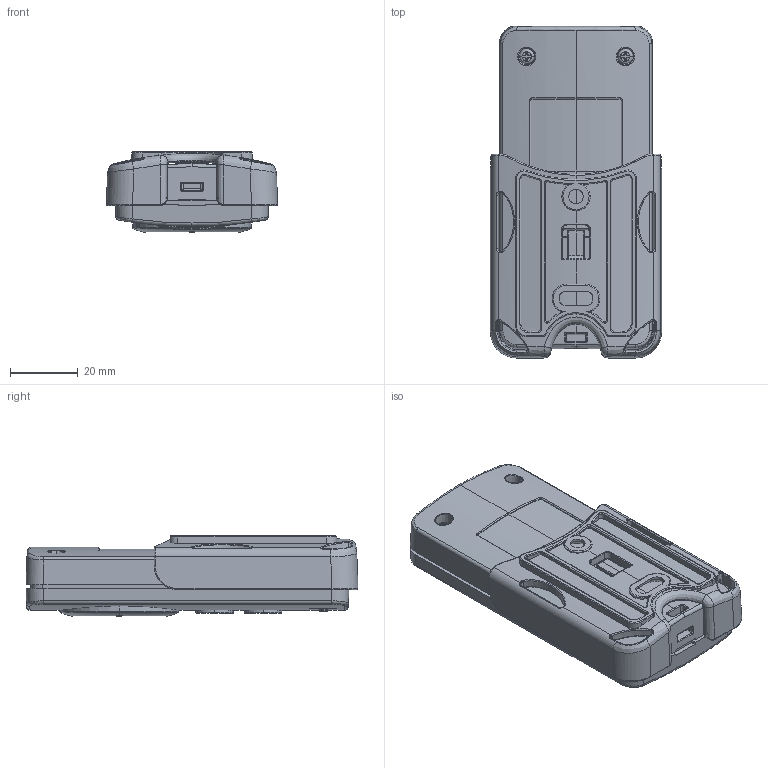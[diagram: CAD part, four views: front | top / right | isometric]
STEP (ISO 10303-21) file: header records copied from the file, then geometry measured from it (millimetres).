
FILE_DESCRIPTION (( 'STEP AP203' ), '1' );
FILE_NAME ('13.225.50.STEP', '2024-12-11T08:06:39', ( '' ), ( '' ), 'SwSTEP 2.0', 'SolidWorks 2024', '' );
FILE_SCHEMA (( 'CONFIG_CONTROL_DESIGN' ));
Length unit declared in the file: millimetre
Products named in the file (6): 13.225.50; 60565-1.a ___y; 60565-3.a ________; 60565-5.a _T_w_y; 60565-2H4O.a _W__(H4); MM-M026-10L ___Y________
Assembly tree (8 placements, depth 2):
  13.225.50
    60565-1.a ___y
    60565-3.a ________
    60565-2H4O.a _W__(H4)
    60565-5.a _T_w_y
    MM-M026-10L ___Y________  x4
Bounding box: 50.36 x 97.68 x 23.62 mm (x, y, z)
Volume: 33221.8 mm3; surface area: 49577.8 mm2
Topology: 7 solids, 16 shells, 2025 faces, 5169 edges, 3160 vertices
Faces by surface type: cylinder 673, plane 572, bspline 399, torus 179, cone 117, sphere 85
Entity records: 88640 total; most frequent: CARTESIAN_POINT 48658, ORIENTED_EDGE 9358, DIRECTION 6643, EDGE_CURVE 4687, VERTEX_POINT 2922, AXIS2_PLACEMENT_3D 2709, B_SPLINE_CURVE_WITH_KNOTS 1962, EDGE_LOOP 1943
